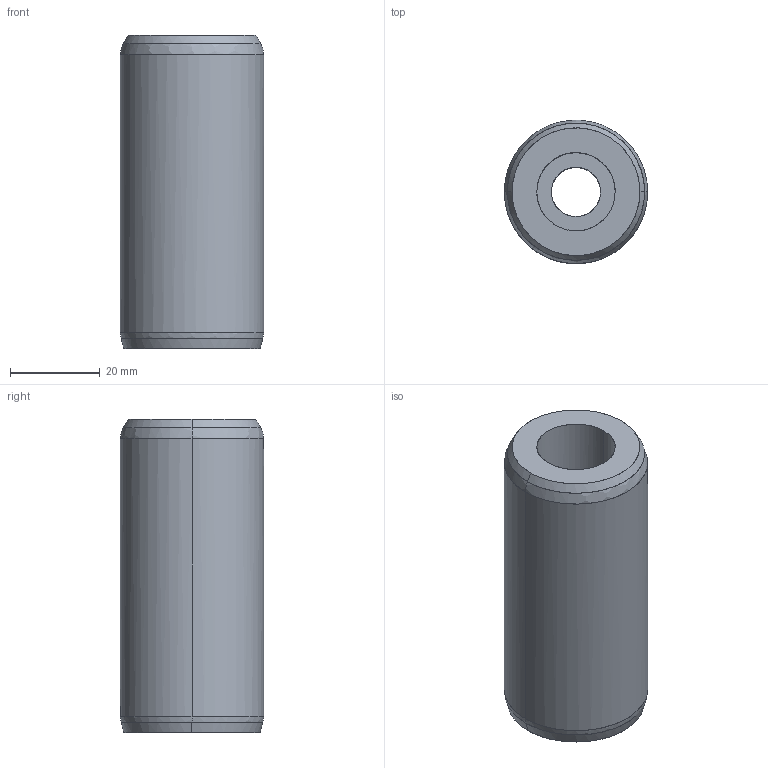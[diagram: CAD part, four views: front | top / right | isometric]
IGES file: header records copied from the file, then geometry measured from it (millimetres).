
Global section: file name: E:\UnigraphicsGraphicData\MISUMI_PRESS-PARTS\IGES\3d_dlpa32_01654_r00.igs; native system: NX V5.0; preprocessor: UGS NX IGES V5.0; author: MISUMI; date: 20110105.160526; units: millimetre
Bounding box: 32 x 31.96 x 70 mm (x, y, z)
Surface area: 11143.5 mm2 (no closed solid volume)
Topology: 0 solids, 0 shells, 17 faces, 120 edges, 120 vertices
Faces by surface type: bspline 17
